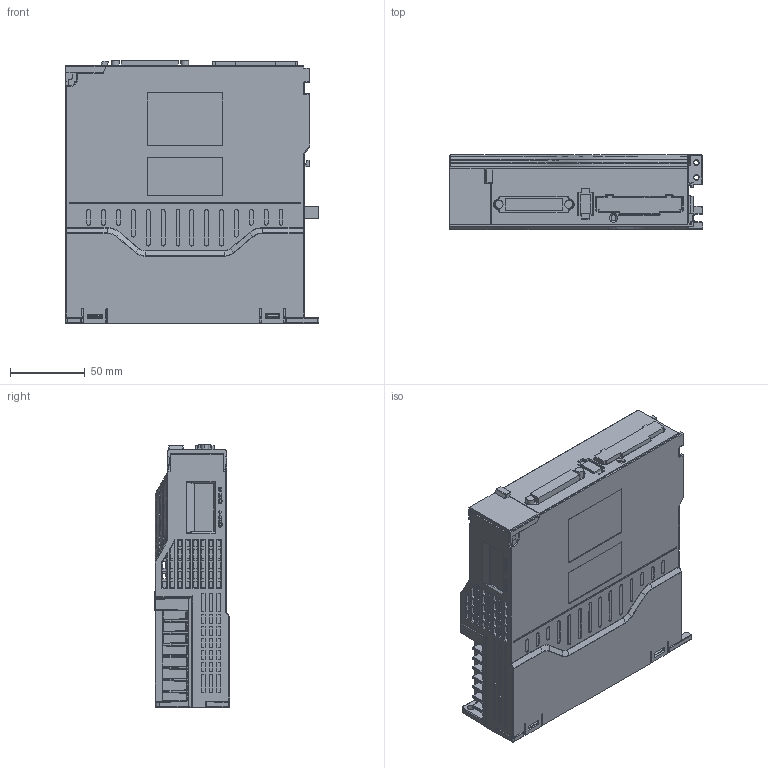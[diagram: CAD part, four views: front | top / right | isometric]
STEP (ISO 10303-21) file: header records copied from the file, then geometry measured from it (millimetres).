
FILE_DESCRIPTION((''),'2;1');
FILE_NAME('00-750W-SF-ASM_ASM','2022-10-21T',('samkoon'),(''),'PRO/ENGINEER BY PARAMETRIC TECHNOLOGY CORPORATION, 2015240','PRO/ENGINEER BY PARAMETRIC TECHNOLOGY CORPORATION, 2015240','');
FILE_SCHEMA(('AUTOMOTIVE_DESIGN { 1 0 10303 214 1 1 1 1 }'));
Products named in the file (8): PCBA-SMA-20211207_24; U255-051N-4BH70-FS_8; PCBA-ASSM_ASM_19_ASM; SMA-COVER_24; SMA-HOUSING-20211208-A_173; SAM-ADC12-20211008_41; SMA-ASM_ASM_89_ASM; 00-750W-SF-ASM_ASM
Assembly tree (7 placements, depth 4):
  00-750W-SF-ASM_ASM
    SMA-ASM_ASM_89_ASM
      PCBA-ASSM_ASM_19_ASM
        PCBA-SMA-20211207_24
        U255-051N-4BH70-FS_8
      SMA-COVER_24
      SMA-HOUSING-20211208-A_173
      SAM-ADC12-20211008_41
Bounding box: 170.32 x 50.49 x 176 mm (x, y, z)
Volume: 772120.4 mm3; surface area: 304020.9 mm2
Topology: 23 solids, 33 shells, 4637 faces, 11827 edges, 7253 vertices
Faces by surface type: plane 2722, cylinder 1195, bspline 342, sphere 184, cone 107, torus 65, extrusion 22
Entity records: 180002 total; most frequent: CARTESIAN_POINT 45111, ORIENTED_EDGE 23268, DIRECTION 20701, EDGE_CURVE 11637, PRESENTATION_STYLE_ASSIGNMENT 8820, STYLED_ITEM 8816, CURVE_STYLE 8796, VECTOR 8135
